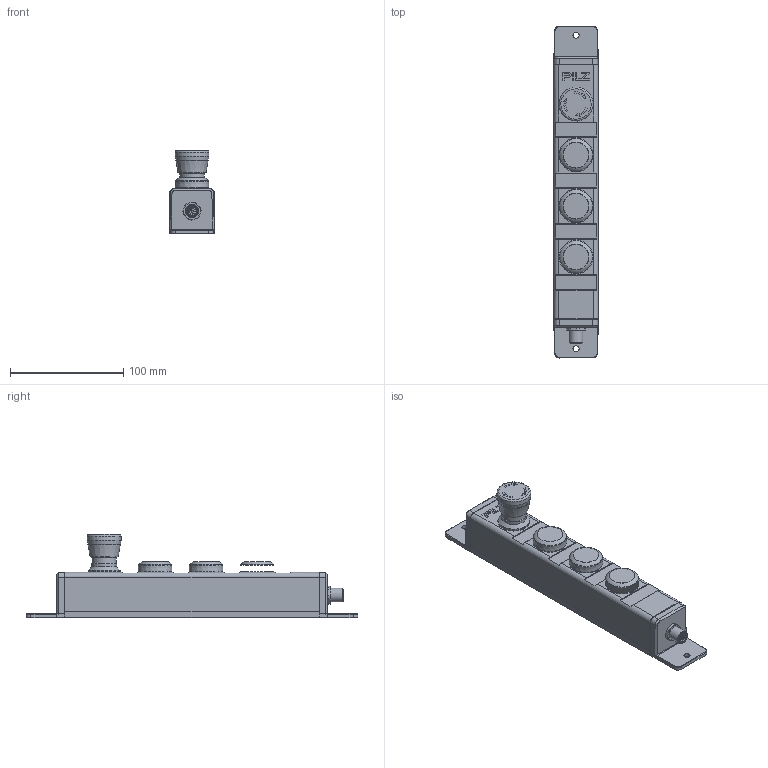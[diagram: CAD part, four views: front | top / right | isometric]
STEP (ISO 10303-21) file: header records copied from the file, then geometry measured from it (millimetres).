
FILE_DESCRIPTION(/* description */ (''),/* implementation_level */ '2;1');
FILE_NAME(/* name */ 'C:\_Vault\Workspace\Projektordner\03-Sensoren\02-STS\09-PITgatebox\03-Kundendaten\2024959_D_PIT_gb_LLLE .stp',/* time_stamp */ '2021-04-14T13:46:08+02:00',/* author */ ('ES-PE'),/* organization */ (''),/* preprocessor_version */ 'ST-DEVELOPER v18.1',/* originating_system */ 'Autodesk Inventor 2020',/* authorisation */ '');
FILE_SCHEMA (('AUTOMOTIVE_DESIGN { 1 0 10303 214 3 1 1 }'));
Length unit declared in the file: millimetre
Products named in the file (4): 2024959; Kundendaten_PIT_gb_Gehäuse; H306916; H306915
Assembly tree (3 placements, depth 2):
  2024959
    Kundendaten_PIT_gb_Gehäuse
    H306916
    H306915
Bounding box: 40 x 293 x 73.68 mm (x, y, z)
Volume: 420345.2 mm3; surface area: 60832 mm2
Topology: 6 solids, 6 shells, 575 faces, 1439 edges, 930 vertices
Faces by surface type: cylinder 189, plane 184, cone 128, torus 35, bspline 23, sphere 16
Full cylindrical faces by diameter (mm): 0.6 x12, 1.1 x12, 5.4 x2, 8.3 x1, 9.5 x2, 9.6 x1, 10 x2, 10.6 x1, 11 x1, 12 x1, 12.1 x1, 14 x1, 20 x2, 21.5 x1, 22.2 x1, 22.55 x1, 28 x1, 28.2 x1, 28.6 x3, 29.2 x3
Entity records: 19190 total; most frequent: CARTESIAN_POINT 5295, DIRECTION 2971, ORIENTED_EDGE 2854, EDGE_CURVE 1427, AXIS2_PLACEMENT_3D 1227, VERTEX_POINT 930, CIRCLE 656, EDGE_LOOP 647
